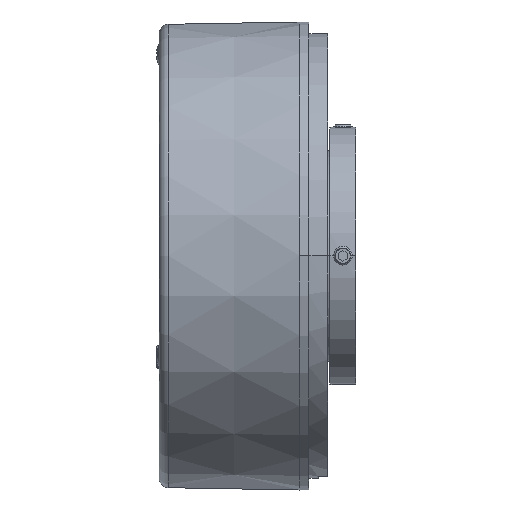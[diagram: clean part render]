
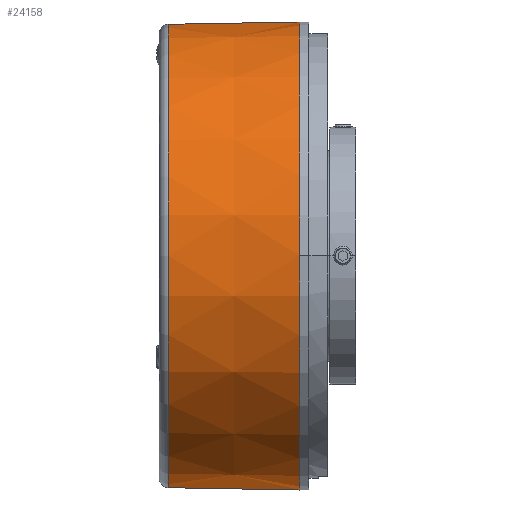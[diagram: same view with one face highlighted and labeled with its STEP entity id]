
A CAD part, top view. The second image highlights one B-rep face of the part: STEP entity #24158.
In plain terms, the highlighted conical face has half-angle 1 degrees and reference radius 50 mm.
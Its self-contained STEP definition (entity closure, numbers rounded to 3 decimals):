
#13122 = CARTESIAN_POINT ( 'NONE',  ( -20.808, 46.344, 0. ) ) ;
#13134 = CARTESIAN_POINT ( 'NONE',  ( -20.808, -52.677, 0. ) ) ;
#13289 = DIRECTION ( 'NONE',  ( 0., 1., 0. ) ) ;
#13290 = DIRECTION ( 'NONE',  ( 1., 0., 0. ) ) ;
#13291 = CARTESIAN_POINT ( 'NONE',  ( -20.808, -3.167, 0. ) ) ;
#13292 = AXIS2_PLACEMENT_3D ( 'NONE', #13291, #13290, #13289 ) ;
#13293 = CIRCLE ( 'NONE', #13292, 49.511 ) ;
#14216 = DIRECTION ( 'NONE',  ( 0., -1., 0. ) ) ;
#14217 = DIRECTION ( 'NONE',  ( 1., 0., 0. ) ) ;
#14218 = CARTESIAN_POINT ( 'NONE',  ( 7.227, -3.167, 0. ) ) ;
#14219 = AXIS2_PLACEMENT_3D ( 'NONE', #14218, #14217, #14216 ) ;
#14222 = CONICAL_SURFACE ( 'NONE', #14219, 50., 0.017 ) ;
#14239 = FACE_OUTER_BOUND ( 'NONE', #24250, .T. ) ;
#14254 = CARTESIAN_POINT ( 'NONE',  ( 7.227, 46.833, 0. ) ) ;
#14280 = DIRECTION ( 'NONE',  ( 1., 0.017, 0. ) ) ;
#14281 = VECTOR ( 'NONE', #14280, 1000. ) ;
#14289 = CARTESIAN_POINT ( 'NONE',  ( 7.227, 46.833, 0. ) ) ;
#14290 = LINE ( 'NONE', #14289, #14281 ) ;
#14449 = CARTESIAN_POINT ( 'NONE',  ( 7.227, -3.167, 0. ) ) ;
#14481 = DIRECTION ( 'NONE',  ( 1., -0.017, 0. ) ) ;
#14482 = VECTOR ( 'NONE', #14481, 1000. ) ;
#14483 = CARTESIAN_POINT ( 'NONE',  ( 7.227, -53.167, 0. ) ) ;
#14484 = LINE ( 'NONE', #14483, #14482 ) ;
#14504 = DIRECTION ( 'NONE',  ( 0., 1., 0. ) ) ;
#14505 = DIRECTION ( 'NONE',  ( -1., 0., 0. ) ) ;
#14507 = AXIS2_PLACEMENT_3D ( 'NONE', #14449, #14505, #14504 ) ;
#14508 = CIRCLE ( 'NONE', #14507, 50. ) ;
#14549 = CARTESIAN_POINT ( 'NONE',  ( 7.227, -53.167, 0. ) ) ;
#22059 = VERTEX_POINT ( 'NONE', #13134 ) ;
#22211 = VERTEX_POINT ( 'NONE', #13122 ) ;
#22451 = EDGE_CURVE ( 'NONE', #22211, #22059, #13293, .T. ) ;
#24117 = ORIENTED_EDGE ( 'NONE', *, *, #24296, .F. ) ;
#24158 = ADVANCED_FACE ( 'NONE', ( #14239 ), #14222, .T. ) ;
#24250 = EDGE_LOOP ( 'NONE', ( #24117, #24537, #24415, #24440 ) ) ;
#24258 = VERTEX_POINT ( 'NONE', #14254 ) ;
#24296 = EDGE_CURVE ( 'NONE', #22211, #24258, #14290, .T. ) ;
#24415 = ORIENTED_EDGE ( 'NONE', *, *, #24520, .T. ) ;
#24428 = EDGE_CURVE ( 'NONE', #24531, #24258, #14508, .T. ) ;
#24440 = ORIENTED_EDGE ( 'NONE', *, *, #24428, .T. ) ;
#24520 = EDGE_CURVE ( 'NONE', #22059, #24531, #14484, .T. ) ;
#24531 = VERTEX_POINT ( 'NONE', #14549 ) ;
#24537 = ORIENTED_EDGE ( 'NONE', *, *, #22451, .T. ) ;
